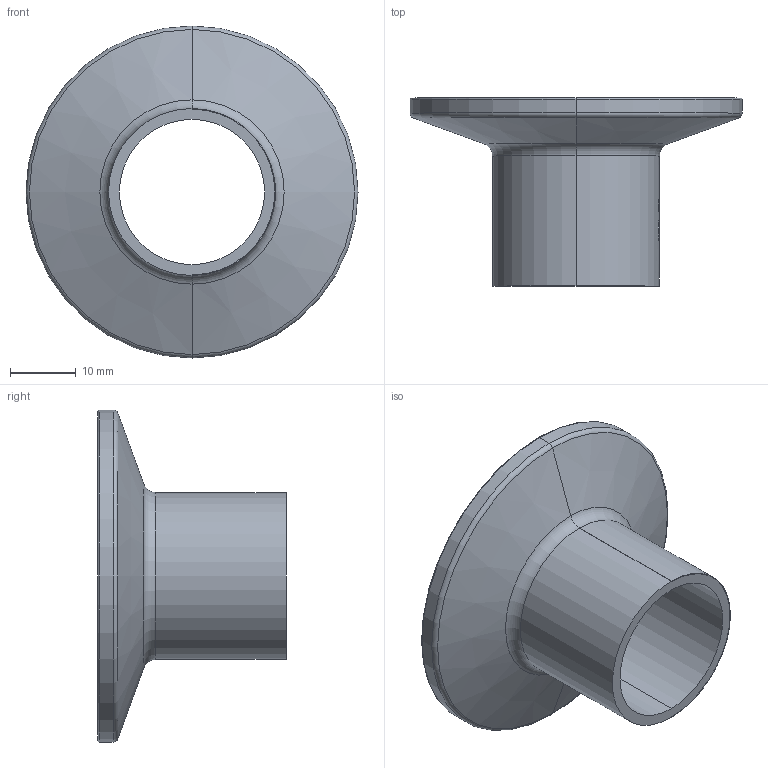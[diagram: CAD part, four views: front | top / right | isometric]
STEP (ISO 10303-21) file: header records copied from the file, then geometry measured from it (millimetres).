
FILE_DESCRIPTION((''),'2;1');
FILE_NAME('76806261800','2020-09-14T15:46:57',('alfio.taboni'),('CDM Tecnoconsulting'),'CREO PARAMETRIC BY PTC INC, 2020053','CREO PARAMETRIC BY PTC INC, 2020053','');
FILE_SCHEMA(('CONFIG_CONTROL_DESIGN','SHAPE_APPEARANCE_LAYERS_GROUPS'));
Length unit declared in the file: millimetre
Products named in the file (1): 76806261800
Bounding box: 50.5 x 28.6 x 50.5 mm (x, y, z)
Volume: 10290.8 mm3; surface area: 8393.3 mm2
Topology: 1 solids, 2 shells, 155 faces, 397 edges, 260 vertices
Faces by surface type: plane 73, extrusion 55, torus 12, cylinder 9, cone 6
Entity records: 5148 total; most frequent: CARTESIAN_POINT 1563, ORIENTED_EDGE 790, DIRECTION 559, EDGE_CURVE 397, VERTEX_POINT 260, VECTOR 253, B_SPLINE_CURVE_WITH_KNOTS 202, LINE 198
